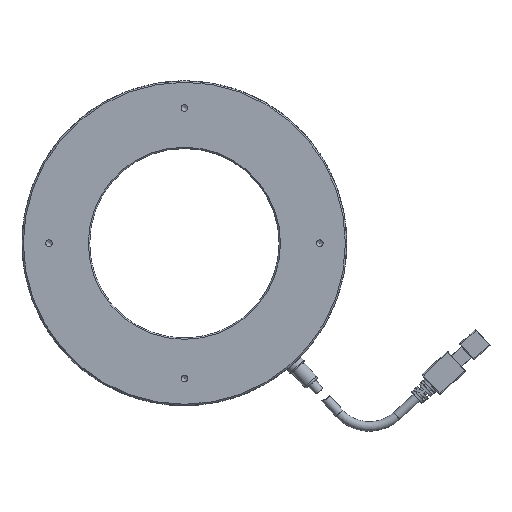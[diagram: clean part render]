
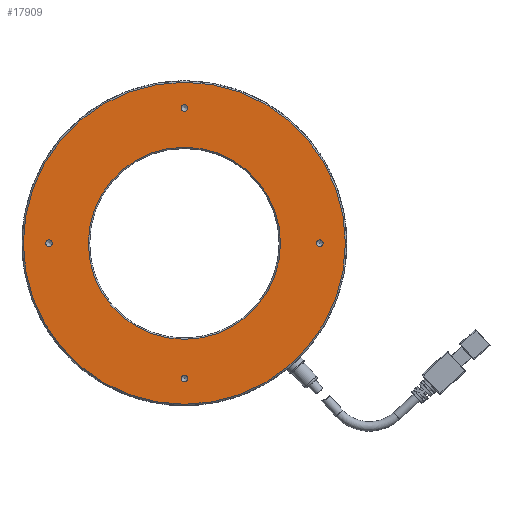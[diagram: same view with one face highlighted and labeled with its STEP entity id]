
A CAD part, front view. The second image highlights one B-rep face of the part: STEP entity #17909.
In plain terms, the highlighted planar face has unit normal (0, -1, 0).
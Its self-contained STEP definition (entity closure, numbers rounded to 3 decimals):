
#819 = CARTESIAN_POINT ( 'NONE',  ( 0., 0., 51.25 ) ) ;
#829 = AXIS2_PLACEMENT_3D ( 'NONE', #3607, #10635, #26824 ) ;
#1020 = EDGE_LOOP ( 'NONE', ( #3588 ) ) ;
#1528 = EDGE_LOOP ( 'NONE', ( #7729 ) ) ;
#3076 = DIRECTION ( 'NONE',  ( 0., 1., 0. ) ) ;
#3588 = ORIENTED_EDGE ( 'NONE', *, *, #16057, .T. ) ;
#3607 = CARTESIAN_POINT ( 'NONE',  ( 0., 0., -50. ) ) ;
#3696 = PLANE ( 'NONE',  #5511 ) ;
#3806 = CARTESIAN_POINT ( 'NONE',  ( 35., 0., 0. ) ) ;
#4027 = DIRECTION ( 'NONE',  ( 0., 1., 0. ) ) ;
#4060 = DIRECTION ( 'NONE',  ( 0., 1., 0. ) ) ;
#4233 = CARTESIAN_POINT ( 'NONE',  ( 0., 0., 50. ) ) ;
#4441 = DIRECTION ( 'NONE',  ( 0., 0., 1. ) ) ;
#4521 = VERTEX_POINT ( 'NONE', #22170 ) ;
#4684 = CARTESIAN_POINT ( 'NONE',  ( 0., 0., 0. ) ) ;
#5252 = ORIENTED_EDGE ( 'NONE', *, *, #29462, .T. ) ;
#5253 = VERTEX_POINT ( 'NONE', #19883 ) ;
#5511 = AXIS2_PLACEMENT_3D ( 'NONE', #3806, #6024, #24163 ) ;
#5683 = FACE_BOUND ( 'NONE', #28200, .T. ) ;
#6024 = DIRECTION ( 'NONE',  ( 0., 1., 0. ) ) ;
#6287 = AXIS2_PLACEMENT_3D ( 'NONE', #7153, #16030, #4441 ) ;
#6725 = DIRECTION ( 'NONE',  ( 0., -1., 0. ) ) ;
#7153 = CARTESIAN_POINT ( 'NONE',  ( 0., 0., 0. ) ) ;
#7635 = DIRECTION ( 'NONE',  ( 0., 0., 1. ) ) ;
#7729 = ORIENTED_EDGE ( 'NONE', *, *, #22783, .T. ) ;
#8028 = AXIS2_PLACEMENT_3D ( 'NONE', #4684, #6725, #23125 ) ;
#8574 = CARTESIAN_POINT ( 'NONE',  ( 0., 0., 59.5 ) ) ;
#9618 = CIRCLE ( 'NONE', #8028, 59.5 ) ;
#9872 = AXIS2_PLACEMENT_3D ( 'NONE', #19877, #4027, #13290 ) ;
#10635 = DIRECTION ( 'NONE',  ( 0., 1., 0. ) ) ;
#11481 = EDGE_LOOP ( 'NONE', ( #12725 ) ) ;
#11756 = FACE_OUTER_BOUND ( 'NONE', #20037, .T. ) ;
#12725 = ORIENTED_EDGE ( 'NONE', *, *, #25956, .T. ) ;
#12896 = CARTESIAN_POINT ( 'NONE',  ( 0., 0., -48.75 ) ) ;
#13290 = DIRECTION ( 'NONE',  ( 0., 0., 1. ) ) ;
#16030 = DIRECTION ( 'NONE',  ( 0., 1., 0. ) ) ;
#16057 = EDGE_CURVE ( 'NONE', #29451, #29451, #24861, .T. ) ;
#16162 = AXIS2_PLACEMENT_3D ( 'NONE', #21241, #3076, #7635 ) ;
#16702 = ORIENTED_EDGE ( 'NONE', *, *, #24665, .T. ) ;
#16863 = AXIS2_PLACEMENT_3D ( 'NONE', #4233, #4060, #22804 ) ;
#17421 = CIRCLE ( 'NONE', #6287, 35.5 ) ;
#17909 = ADVANCED_FACE ( 'NONE', ( #17927, #11756, #28759, #5683, #29501, #25502 ), #3696, .F. ) ;
#17927 = FACE_BOUND ( 'NONE', #1528, .T. ) ;
#18569 = VERTEX_POINT ( 'NONE', #29151 ) ;
#18720 = ORIENTED_EDGE ( 'NONE', *, *, #27168, .T. ) ;
#19312 = CIRCLE ( 'NONE', #829, 1.25 ) ;
#19877 = CARTESIAN_POINT ( 'NONE',  ( -50., 0., 0. ) ) ;
#19883 = CARTESIAN_POINT ( 'NONE',  ( 0., 0., 35.5 ) ) ;
#19931 = CIRCLE ( 'NONE', #16162, 1.25 ) ;
#20037 = EDGE_LOOP ( 'NONE', ( #5252 ) ) ;
#21241 = CARTESIAN_POINT ( 'NONE',  ( 50., 0., 0. ) ) ;
#21269 = EDGE_LOOP ( 'NONE', ( #16702 ) ) ;
#22170 = CARTESIAN_POINT ( 'NONE',  ( 50., 0., 1.25 ) ) ;
#22783 = EDGE_CURVE ( 'NONE', #5253, #5253, #17421, .T. ) ;
#22804 = DIRECTION ( 'NONE',  ( 0., 0., 1. ) ) ;
#22917 = VERTEX_POINT ( 'NONE', #12896 ) ;
#23125 = DIRECTION ( 'NONE',  ( 0., 0., 1. ) ) ;
#24163 = DIRECTION ( 'NONE',  ( 0., 0., 1. ) ) ;
#24665 = EDGE_CURVE ( 'NONE', #4521, #4521, #19931, .T. ) ;
#24861 = CIRCLE ( 'NONE', #16863, 1.25 ) ;
#25489 = CIRCLE ( 'NONE', #9872, 1.25 ) ;
#25502 = FACE_BOUND ( 'NONE', #1020, .T. ) ;
#25956 = EDGE_CURVE ( 'NONE', #18569, #18569, #25489, .T. ) ;
#26166 = VERTEX_POINT ( 'NONE', #8574 ) ;
#26824 = DIRECTION ( 'NONE',  ( 0., 0., 1. ) ) ;
#27168 = EDGE_CURVE ( 'NONE', #22917, #22917, #19312, .T. ) ;
#28200 = EDGE_LOOP ( 'NONE', ( #18720 ) ) ;
#28759 = FACE_BOUND ( 'NONE', #11481, .T. ) ;
#29151 = CARTESIAN_POINT ( 'NONE',  ( -50., 0., 1.25 ) ) ;
#29451 = VERTEX_POINT ( 'NONE', #819 ) ;
#29462 = EDGE_CURVE ( 'NONE', #26166, #26166, #9618, .T. ) ;
#29501 = FACE_BOUND ( 'NONE', #21269, .T. ) ;
